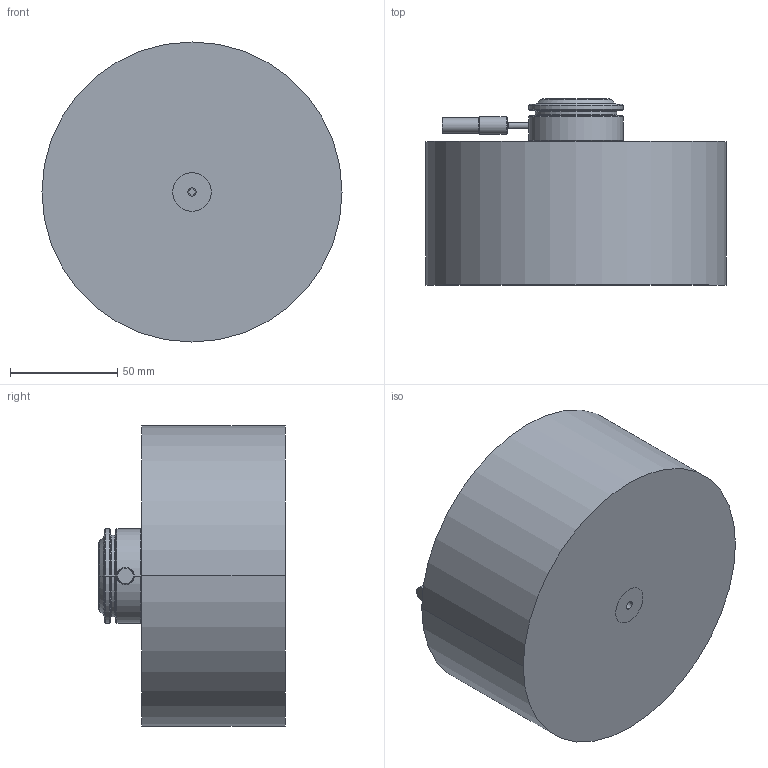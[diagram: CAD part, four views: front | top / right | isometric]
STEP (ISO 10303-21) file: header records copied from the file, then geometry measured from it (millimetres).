
FILE_DESCRIPTION((''),'2;1');
FILE_NAME('M44C101.stp','2020-09-19T08:40:16',(''),(''),'AutoCAD STEP 2000i','AutoCAD 2000i',', , ');
FILE_SCHEMA(('CONFIG_CONTROL_DESIGN'));
Length unit declared in the file: millimetre
Products named in the file (3): DRAWING1; NOZZLE M 101 C 44; MOLD BODY M 102 C44
Assembly tree (2 placements, depth 2):
  DRAWING1
    NOZZLE M 101 C 44
    MOLD BODY M 102 C44
Bounding box: 140 x 87 x 140 mm (x, y, z)
Volume: 1052808.8 mm3; surface area: 78265.5 mm2
Topology: 2 solids, 2 shells, 116 faces, 281 edges, 181 vertices
Faces by surface type: cylinder 36, cone 32, bspline 18, plane 18, torus 12
Entity records: 4366 total; most frequent: CARTESIAN_POINT 1406, DIRECTION 685, ORIENTED_EDGE 558, AXIS2_PLACEMENT_3D 308, EDGE_CURVE 279, CIRCLE 207, VERTEX_POINT 181, EDGE_LOOP 132
